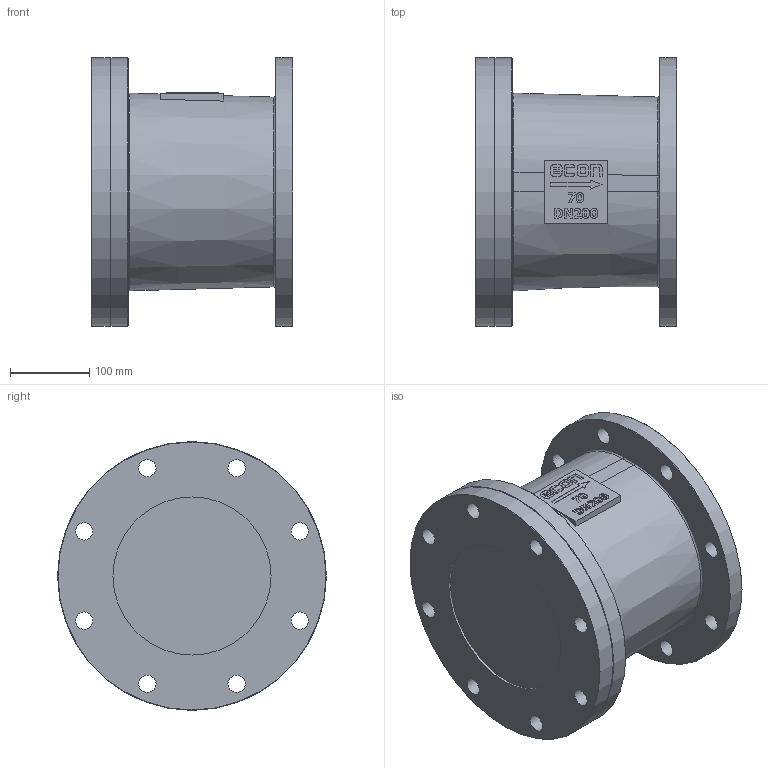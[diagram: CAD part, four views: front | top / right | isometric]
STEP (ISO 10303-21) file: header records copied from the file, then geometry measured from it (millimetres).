
FILE_DESCRIPTION(/* description */ ('Eriks item no: 11810425'),/* implementation_level */ '2;1');
FILE_NAME(/* name */ 'L:\DATA\ENG\Inventor\Econ 3D modellen\terugslagklep\70NGY\70NGY-DN200-PN10-NBR.stp',/* time_stamp */ '2023-12-05T08:13:39+01:00',/* author */ ('roger.thijssen'),/* organization */ (''),/* preprocessor_version */ 'ST-DEVELOPER v18',/* originating_system */ 'Autodesk Inventor 2020',/* authorisation */ '');
FILE_SCHEMA (('CONFIG_CONTROL_DESIGN'));
Length unit declared in the file: millimetre
Products named in the file (1): Check valve, 70NGY-DN200-PN10-NBR
Bounding box: 255 x 340 x 340 mm (x, y, z)
Volume: 15059674.5 mm3; surface area: 514554.7 mm2
Topology: 1 solids, 1 shells, 213 faces, 563 edges, 374 vertices
Faces by surface type: plane 105, bspline 57, cylinder 42, cone 7, torus 2
Full cylindrical faces by diameter (mm): 22 x16, 200 x2, 340 x3
Entity records: 7352 total; most frequent: CARTESIAN_POINT 2186, ORIENTED_EDGE 1126, DIRECTION 887, EDGE_CURVE 563, VERTEX_POINT 374, LINE 339, VECTOR 339, AXIS2_PLACEMENT_3D 274
